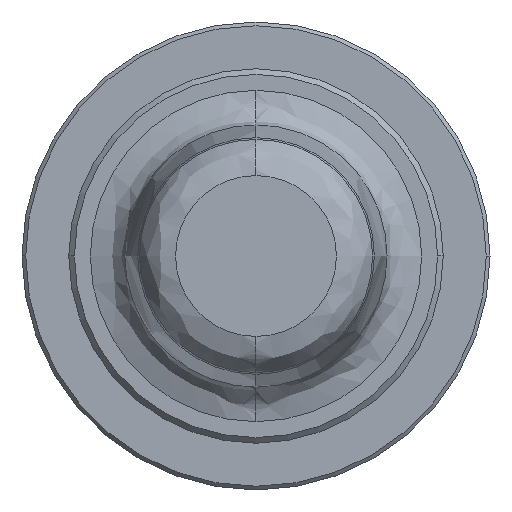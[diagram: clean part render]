
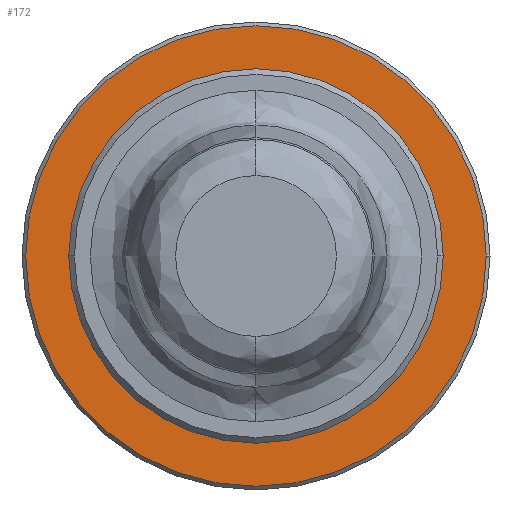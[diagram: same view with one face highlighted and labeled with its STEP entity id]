
A CAD part, left-side view. The second image highlights one B-rep face of the part: STEP entity #172.
In plain terms, the highlighted planar face has unit normal (-1, 0, 0).
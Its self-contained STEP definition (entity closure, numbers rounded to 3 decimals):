
#64 = CARTESIAN_POINT ( 'NONE',  ( 39.7, 60., 78. ) ) ;
#92 = DIRECTION ( 'NONE',  ( 1., 0., 0. ) ) ;
#167 = CARTESIAN_POINT ( 'NONE',  ( 39.7, 60., 68.2 ) ) ;
#169 = VERTEX_POINT ( 'NONE', #167 ) ;
#172 = ADVANCED_FACE ( 'NONE', ( #1087, #557 ), #342, .T. ) ;
#273 = EDGE_CURVE ( 'NONE', #169, #1116, #1225, .T. ) ;
#284 = CARTESIAN_POINT ( 'NONE',  ( 39.7, 47.7, 78. ) ) ;
#301 = CARTESIAN_POINT ( 'NONE',  ( 39.7, 60., 87.8 ) ) ;
#342 = PLANE ( 'NONE',  #751 ) ;
#357 = CARTESIAN_POINT ( 'NONE',  ( 39.7, 60., 78. ) ) ;
#386 = DIRECTION ( 'NONE',  ( 0., 1., 0. ) ) ;
#432 = ORIENTED_EDGE ( 'NONE', *, *, #273, .T. ) ;
#456 = DIRECTION ( 'NONE',  ( 0., 1., 0. ) ) ;
#501 = DIRECTION ( 'NONE',  ( 0., 1., 0. ) ) ;
#502 = CIRCLE ( 'NONE', #1256, 12.3 ) ;
#543 = VERTEX_POINT ( 'NONE', #1269 ) ;
#557 = FACE_OUTER_BOUND ( 'NONE', #959, .T. ) ;
#576 = DIRECTION ( 'NONE',  ( -1., 0., 0. ) ) ;
#623 = EDGE_CURVE ( 'NONE', #1081, #543, #916, .T. ) ;
#741 = EDGE_CURVE ( 'NONE', #543, #1081, #502, .T. ) ;
#742 = CARTESIAN_POINT ( 'NONE',  ( 39.7, 60., 78. ) ) ;
#751 = AXIS2_PLACEMENT_3D ( 'NONE', #752, #576, #1173 ) ;
#752 = CARTESIAN_POINT ( 'NONE',  ( 39.7, 71.05, 78. ) ) ;
#820 = CIRCLE ( 'NONE', #1208, 9.8 ) ;
#916 = CIRCLE ( 'NONE', #1203, 12.3 ) ;
#929 = AXIS2_PLACEMENT_3D ( 'NONE', #742, #1257, #1268 ) ;
#959 = EDGE_LOOP ( 'NONE', ( #1176, #1282 ) ) ;
#1004 = CARTESIAN_POINT ( 'NONE',  ( 39.7, 60., 78. ) ) ;
#1081 = VERTEX_POINT ( 'NONE', #284 ) ;
#1085 = DIRECTION ( 'NONE',  ( 1., 0., 0. ) ) ;
#1087 = FACE_BOUND ( 'NONE', #1320, .T. ) ;
#1090 = ORIENTED_EDGE ( 'NONE', *, *, #1192, .T. ) ;
#1116 = VERTEX_POINT ( 'NONE', #301 ) ;
#1173 = DIRECTION ( 'NONE',  ( 0., 0., 1. ) ) ;
#1176 = ORIENTED_EDGE ( 'NONE', *, *, #741, .F. ) ;
#1192 = EDGE_CURVE ( 'NONE', #1116, #169, #820, .T. ) ;
#1195 = DIRECTION ( 'NONE',  ( 1., 0., 0. ) ) ;
#1203 = AXIS2_PLACEMENT_3D ( 'NONE', #357, #1085, #456 ) ;
#1208 = AXIS2_PLACEMENT_3D ( 'NONE', #1004, #92, #501 ) ;
#1225 = CIRCLE ( 'NONE', #929, 9.8 ) ;
#1256 = AXIS2_PLACEMENT_3D ( 'NONE', #64, #1195, #386 ) ;
#1257 = DIRECTION ( 'NONE',  ( 1., 0., 0. ) ) ;
#1268 = DIRECTION ( 'NONE',  ( 0., 1., 0. ) ) ;
#1269 = CARTESIAN_POINT ( 'NONE',  ( 39.7, 72.3, 78. ) ) ;
#1282 = ORIENTED_EDGE ( 'NONE', *, *, #623, .F. ) ;
#1320 = EDGE_LOOP ( 'NONE', ( #1090, #432 ) ) ;
